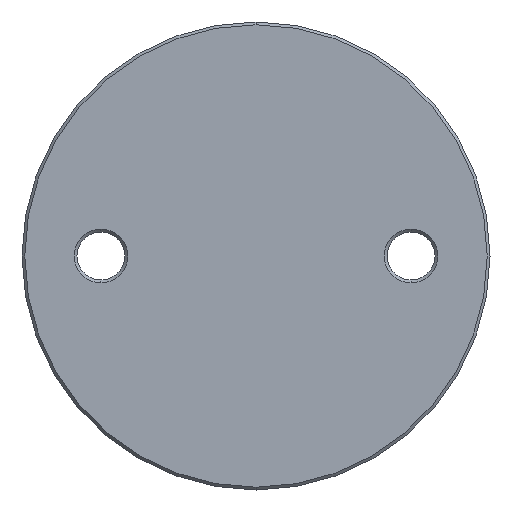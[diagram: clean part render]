
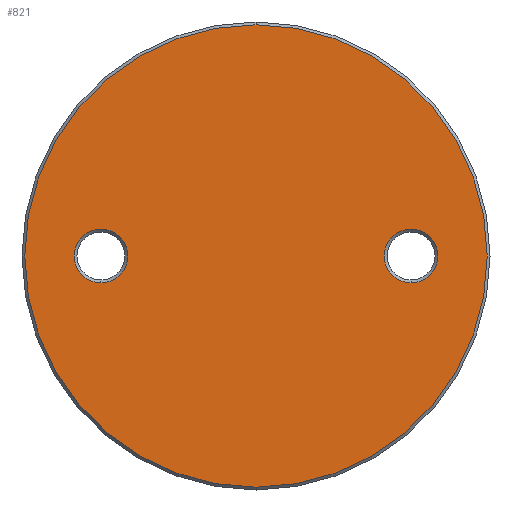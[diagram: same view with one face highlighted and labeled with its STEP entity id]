
A CAD part, front view. The second image highlights one B-rep face of the part: STEP entity #821.
In plain terms, the highlighted planar face has unit normal (0, -1, 0).
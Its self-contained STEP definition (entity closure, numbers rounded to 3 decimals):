
#33 = EDGE_CURVE ( 'NONE', #2666, #932, #4472, .T. ) ;
#99 = FACE_BOUND ( 'NONE', #3849, .T. ) ;
#186 = EDGE_CURVE ( 'NONE', #696, #243, #4877, .T. ) ;
#243 = VERTEX_POINT ( 'NONE', #4842 ) ;
#323 = AXIS2_PLACEMENT_3D ( 'NONE', #4507, #4438, #721 ) ;
#337 = AXIS2_PLACEMENT_3D ( 'NONE', #4789, #1422, #4773 ) ;
#455 = DIRECTION ( 'NONE',  ( 0., 0., -1. ) ) ;
#465 = EDGE_CURVE ( 'NONE', #243, #696, #4637, .T. ) ;
#645 = DIRECTION ( 'NONE',  ( 0., 1., 0. ) ) ;
#696 = VERTEX_POINT ( 'NONE', #3947 ) ;
#704 = DIRECTION ( 'NONE',  ( 0., 1., 0. ) ) ;
#721 = DIRECTION ( 'NONE',  ( 0., 0., -1. ) ) ;
#821 = ADVANCED_FACE ( 'NONE', ( #4120, #99, #4524 ), #4420, .T. ) ;
#932 = VERTEX_POINT ( 'NONE', #4515 ) ;
#1059 = ORIENTED_EDGE ( 'NONE', *, *, #2292, .T. ) ;
#1181 = DIRECTION ( 'NONE',  ( 0., 0., -1. ) ) ;
#1395 = EDGE_LOOP ( 'NONE', ( #4538, #1059 ) ) ;
#1422 = DIRECTION ( 'NONE',  ( 0., -1., 0. ) ) ;
#1426 = CIRCLE ( 'NONE', #1534, 4.75 ) ;
#1534 = AXIS2_PLACEMENT_3D ( 'NONE', #3475, #4242, #4585 ) ;
#1592 = CARTESIAN_POINT ( 'NONE',  ( 0., -3., 0. ) ) ;
#1725 = CARTESIAN_POINT ( 'NONE',  ( 27.5, -3., -4.75 ) ) ;
#1760 = AXIS2_PLACEMENT_3D ( 'NONE', #3689, #645, #4437 ) ;
#1775 = CARTESIAN_POINT ( 'NONE',  ( -27.5, -3., -4.75 ) ) ;
#1821 = DIRECTION ( 'NONE',  ( 0., 0., -1. ) ) ;
#1924 = CARTESIAN_POINT ( 'NONE',  ( 27.5, -3., 0. ) ) ;
#1984 = AXIS2_PLACEMENT_3D ( 'NONE', #1924, #2304, #1181 ) ;
#2189 = CARTESIAN_POINT ( 'NONE',  ( 27.5, -3., 0. ) ) ;
#2292 = EDGE_CURVE ( 'NONE', #932, #2666, #3030, .T. ) ;
#2304 = DIRECTION ( 'NONE',  ( 0., 1., 0. ) ) ;
#2368 = EDGE_CURVE ( 'NONE', #4768, #3784, #1426, .T. ) ;
#2587 = ORIENTED_EDGE ( 'NONE', *, *, #186, .T. ) ;
#2666 = VERTEX_POINT ( 'NONE', #1725 ) ;
#2862 = AXIS2_PLACEMENT_3D ( 'NONE', #2189, #704, #1821 ) ;
#2875 = ORIENTED_EDGE ( 'NONE', *, *, #465, .T. ) ;
#3030 = CIRCLE ( 'NONE', #2862, 4.75 ) ;
#3279 = CIRCLE ( 'NONE', #1760, 4.75 ) ;
#3475 = CARTESIAN_POINT ( 'NONE',  ( -27.5, -3., 0. ) ) ;
#3557 = EDGE_LOOP ( 'NONE', ( #2587, #2875 ) ) ;
#3623 = ORIENTED_EDGE ( 'NONE', *, *, #2368, .T. ) ;
#3689 = CARTESIAN_POINT ( 'NONE',  ( -27.5, -3., 0. ) ) ;
#3731 = AXIS2_PLACEMENT_3D ( 'NONE', #1592, #4617, #455 ) ;
#3769 = EDGE_CURVE ( 'NONE', #3784, #4768, #3279, .T. ) ;
#3784 = VERTEX_POINT ( 'NONE', #1775 ) ;
#3849 = EDGE_LOOP ( 'NONE', ( #4648, #3623 ) ) ;
#3947 = CARTESIAN_POINT ( 'NONE',  ( 0., -3., 41. ) ) ;
#4120 = FACE_BOUND ( 'NONE', #1395, .T. ) ;
#4242 = DIRECTION ( 'NONE',  ( 0., 1., 0. ) ) ;
#4420 = PLANE ( 'NONE',  #337 ) ;
#4437 = DIRECTION ( 'NONE',  ( 0., 0., -1. ) ) ;
#4438 = DIRECTION ( 'NONE',  ( 0., -1., 0. ) ) ;
#4472 = CIRCLE ( 'NONE', #1984, 4.75 ) ;
#4507 = CARTESIAN_POINT ( 'NONE',  ( 0., -3., 0. ) ) ;
#4515 = CARTESIAN_POINT ( 'NONE',  ( 27.5, -3., 4.75 ) ) ;
#4524 = FACE_OUTER_BOUND ( 'NONE', #3557, .T. ) ;
#4538 = ORIENTED_EDGE ( 'NONE', *, *, #33, .T. ) ;
#4585 = DIRECTION ( 'NONE',  ( 0., 0., -1. ) ) ;
#4617 = DIRECTION ( 'NONE',  ( 0., -1., 0. ) ) ;
#4637 = CIRCLE ( 'NONE', #3731, 41. ) ;
#4648 = ORIENTED_EDGE ( 'NONE', *, *, #3769, .T. ) ;
#4689 = CARTESIAN_POINT ( 'NONE',  ( -27.5, -3., 4.75 ) ) ;
#4768 = VERTEX_POINT ( 'NONE', #4689 ) ;
#4773 = DIRECTION ( 'NONE',  ( 0., 0., -1. ) ) ;
#4789 = CARTESIAN_POINT ( 'NONE',  ( 0., -3., 41.5 ) ) ;
#4842 = CARTESIAN_POINT ( 'NONE',  ( 0., -3., -41. ) ) ;
#4877 = CIRCLE ( 'NONE', #323, 41. ) ;
